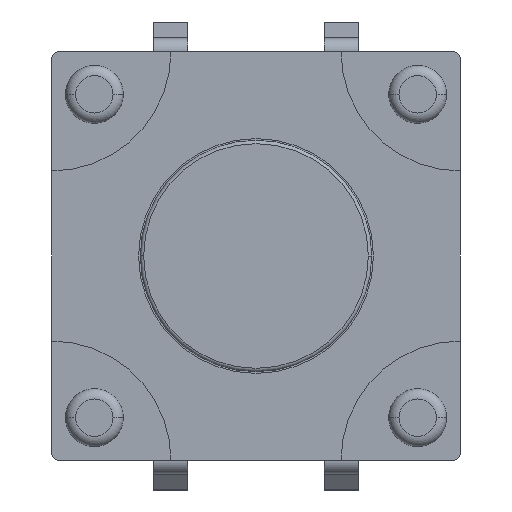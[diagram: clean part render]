
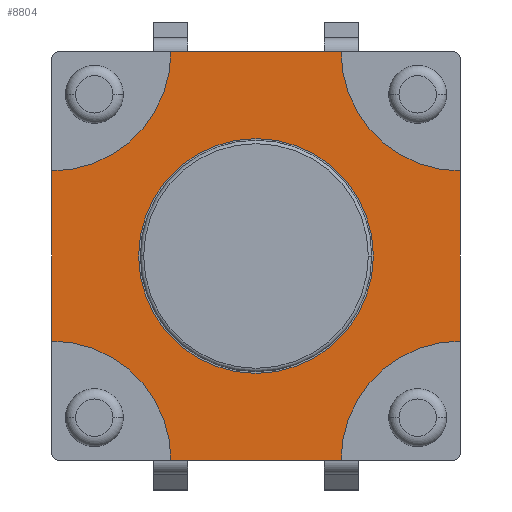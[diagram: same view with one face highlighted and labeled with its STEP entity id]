
A CAD part, front view. The second image highlights one B-rep face of the part: STEP entity #8804.
In plain terms, the highlighted planar face has unit normal (0, -1, 0).
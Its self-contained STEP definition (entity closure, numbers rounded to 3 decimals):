
#7835=CARTESIAN_POINT('',(0.,-2.,0.));
#7836=DIRECTION('',(0.,-1.,0.));
#7837=DIRECTION('',(-1.,0.,0.));
#7838=AXIS2_PLACEMENT_3D('',#7835,#7836,#7837);
#7843=CARTESIAN_POINT('',(0.,-2.,0.));
#7844=DIRECTION('',(0.,-1.,0.));
#7845=DIRECTION('',(1.,0.,0.));
#7846=AXIS2_PLACEMENT_3D('',#7843,#7844,#7845);
#7851=DIRECTION('',(-1.,0.,0.));
#7852=VECTOR('',#7851,5.);
#7853=CARTESIAN_POINT('',(2.5,-2.,-6.));
#7854=LINE('',#7853,#7852);
#7858=DIRECTION('',(0.,0.,1.));
#7859=VECTOR('',#7858,5.);
#7860=CARTESIAN_POINT('',(-6.,-2.,-2.5));
#7861=LINE('',#7860,#7859);
#7865=DIRECTION('',(1.,0.,0.));
#7866=VECTOR('',#7865,5.);
#7867=CARTESIAN_POINT('',(-2.5,-2.,6.));
#7868=LINE('',#7867,#7866);
#7872=DIRECTION('',(0.,0.,-1.));
#7873=VECTOR('',#7872,5.);
#7874=CARTESIAN_POINT('',(6.,-2.,2.5));
#7875=LINE('',#7874,#7873);
#8231=CARTESIAN_POINT('',(6.,-2.,-6.));
#8232=DIRECTION('',(0.,1.,0.));
#8233=DIRECTION('',(-1.,0.,0.));
#8234=AXIS2_PLACEMENT_3D('',#8231,#8232,#8233);
#8239=CARTESIAN_POINT('',(6.,-2.,6.));
#8240=DIRECTION('',(0.,1.,0.));
#8241=DIRECTION('',(0.,0.,-1.));
#8242=AXIS2_PLACEMENT_3D('',#8239,#8240,#8241);
#8247=CARTESIAN_POINT('',(-6.,-2.,6.));
#8248=DIRECTION('',(0.,1.,0.));
#8249=DIRECTION('',(1.,0.,0.));
#8250=AXIS2_PLACEMENT_3D('',#8247,#8248,#8249);
#8255=CARTESIAN_POINT('',(-6.,-2.,-6.));
#8256=DIRECTION('',(0.,1.,0.));
#8257=DIRECTION('',(0.,0.,1.));
#8258=AXIS2_PLACEMENT_3D('',#8255,#8256,#8257);
#8491=CARTESIAN_POINT('',(-3.45,-2.,0.));
#8492=CARTESIAN_POINT('',(3.45,-2.,0.));
#8493=VERTEX_POINT('',#8491);
#8494=VERTEX_POINT('',#8492);
#8575=CARTESIAN_POINT('',(2.5,-2.,-6.));
#8576=CARTESIAN_POINT('',(6.,-2.,-2.5));
#8577=VERTEX_POINT('',#8575);
#8578=VERTEX_POINT('',#8576);
#8579=CARTESIAN_POINT('',(-6.,-2.,-2.5));
#8580=CARTESIAN_POINT('',(-2.5,-2.,-6.));
#8581=VERTEX_POINT('',#8579);
#8582=VERTEX_POINT('',#8580);
#8583=CARTESIAN_POINT('',(-2.5,-2.,6.));
#8584=CARTESIAN_POINT('',(-6.,-2.,2.5));
#8585=VERTEX_POINT('',#8583);
#8586=VERTEX_POINT('',#8584);
#8587=CARTESIAN_POINT('',(6.,-2.,2.5));
#8588=CARTESIAN_POINT('',(2.5,-2.,6.));
#8589=VERTEX_POINT('',#8587);
#8590=VERTEX_POINT('',#8588);
#8777=CARTESIAN_POINT('',(0.,-2.,0.));
#8778=DIRECTION('',(0.,1.,0.));
#8779=DIRECTION('',(-1.,0.,0.));
#8780=AXIS2_PLACEMENT_3D('',#8777,#8778,#8779);
#8781=PLANE('',#8780);
#8783=ORIENTED_EDGE('',*,*,#8782,.T.);
#8785=ORIENTED_EDGE('',*,*,#8784,.F.);
#8787=ORIENTED_EDGE('',*,*,#8786,.T.);
#8789=ORIENTED_EDGE('',*,*,#8788,.F.);
#8791=ORIENTED_EDGE('',*,*,#8790,.T.);
#8793=ORIENTED_EDGE('',*,*,#8792,.F.);
#8795=ORIENTED_EDGE('',*,*,#8794,.T.);
#8797=ORIENTED_EDGE('',*,*,#8796,.F.);
#8798=EDGE_LOOP('',(#8783,#8785,#8787,#8789,#8791,#8793,#8795,#8797));
#8799=FACE_OUTER_BOUND('',#8798,.F.);
#8800=ORIENTED_EDGE('',*,*,#8757,.T.);
#8801=ORIENTED_EDGE('',*,*,#8771,.T.);
#8802=EDGE_LOOP('',(#8800,#8801));
#8803=FACE_BOUND('',#8802,.F.);
#7839=CIRCLE('',#7838,3.45);
#7847=CIRCLE('',#7846,3.45);
#8235=CIRCLE('',#8234,3.5);
#8243=CIRCLE('',#8242,3.5);
#8251=CIRCLE('',#8250,3.5);
#8259=CIRCLE('',#8258,3.5);
#8757=EDGE_CURVE('',#8493,#8494,#7839,.T.);
#8771=EDGE_CURVE('',#8494,#8493,#7847,.T.);
#8782=EDGE_CURVE('',#8577,#8582,#7854,.T.);
#8784=EDGE_CURVE('',#8581,#8582,#8259,.T.);
#8786=EDGE_CURVE('',#8581,#8586,#7861,.T.);
#8788=EDGE_CURVE('',#8585,#8586,#8251,.T.);
#8790=EDGE_CURVE('',#8585,#8590,#7868,.T.);
#8792=EDGE_CURVE('',#8589,#8590,#8243,.T.);
#8794=EDGE_CURVE('',#8589,#8578,#7875,.T.);
#8796=EDGE_CURVE('',#8577,#8578,#8235,.T.);
#8804=ADVANCED_FACE('',(#8799,#8803),#8781,.F.);
